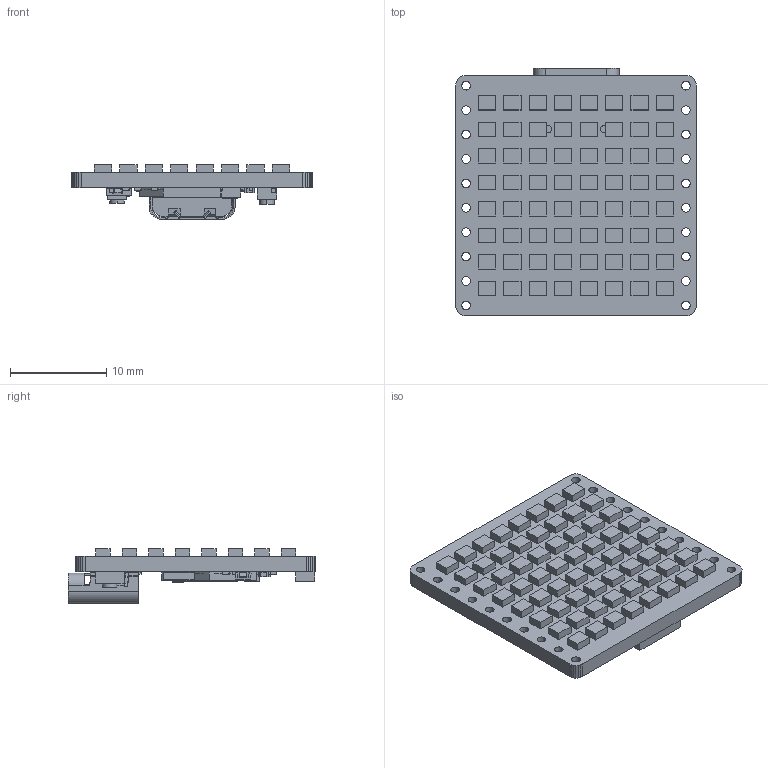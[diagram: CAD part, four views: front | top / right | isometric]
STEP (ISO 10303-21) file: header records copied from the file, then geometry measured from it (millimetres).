
FILE_DESCRIPTION((''),'2;1');
FILE_NAME('ESP32-S3-MATRIX_ASM','2024-07-29T14:08:58',('xiaojisheng'),(''),'CREO PARAMETRIC BY PTC INC, 2021063','CREO PARAMETRIC BY PTC INC, 2021063','');
FILE_SCHEMA(('CONFIG_CONTROL_DESIGN','SHAPE_APPEARANCE_LAYERS_GROUPS'));
Products named in the file (155): BOARD; EXTRUDED-13553; 910288272_ASM; U65_ASM; U64_ASM; U63_ASM; U62_ASM; U61_ASM; U60_ASM; U59_ASM; U58_ASM; U57_ASM; U56_ASM; U55_ASM; U54_ASM; U53_ASM; U52_ASM; U51_ASM; U50_ASM; U48_ASM; U47_ASM; U46_ASM; U45_ASM; U44_ASM; U43_ASM; U42_ASM; U41_ASM; U40_ASM; U39_ASM; U38_ASM; U37_ASM; U36_ASM; U35_ASM; U34_ASM; U33_ASM; U32_ASM; U31_ASM; U30_ASM; U29_ASM; U28_ASM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
Assembly tree (245 placements, depth 7):
  ESP32-S3-MATRIX_ASM
    PCB_ASM
      BOARD
      LED_ASM
        U65_ASM
          910288272_ASM
            EXTRUDED-13553
        U64_ASM
          910288272_ASM
            EXTRUDED-13553
        U63_ASM
          910288272_ASM
            EXTRUDED-13553
        U62_ASM
          910288272_ASM
            EXTRUDED-13553
        U61_ASM
          910288272_ASM
            EXTRUDED-13553
        U60_ASM
          910288272_ASM
            EXTRUDED-13553
        U59_ASM
          910288272_ASM
            EXTRUDED-13553
        U58_ASM
          910288272_ASM
            EXTRUDED-13553
        U57_ASM
          910288272_ASM
            EXTRUDED-13553
        U56_ASM
          910288272_ASM
            EXTRUDED-13553
        U55_ASM
          910288272_ASM
            EXTRUDED-13553
        U54_ASM
          910288272_ASM
            EXTRUDED-13553
        U53_ASM
          910288272_ASM
            EXTRUDED-13553
        U52_ASM
          910288272_ASM
            EXTRUDED-13553
        U51_ASM
          910288272_ASM
            EXTRUDED-13553
        U50_ASM
          910288272_ASM
            EXTRUDED-13553
        U48_ASM
          910288272_ASM
            EXTRUDED-13553
        U47_ASM
          910288272_ASM
            EXTRUDED-13553
        U46_ASM
          910288272_ASM
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Bounding box: 25.02 x 25.76 x 5.7 mm (x, y, z)
Volume: 1312.8 mm3; surface area: 3004.8 mm2
Topology: 192 solids, 193 shells, 8371 faces, 21856 edges, 14323 vertices
Faces by surface type: plane 6177, extrusion 1107, cylinder 910, sphere 152, cone 13, torus 12
Entity records: 106275 total; most frequent: CARTESIAN_POINT 19982, ORIENTED_EDGE 13108, DIRECTION 12779, PRESENTATION_STYLE_ASSIGNMENT 6806, STYLED_ITEM 6601, CURVE_STYLE 6566, EDGE_CURVE 6554, VECTOR 5097
